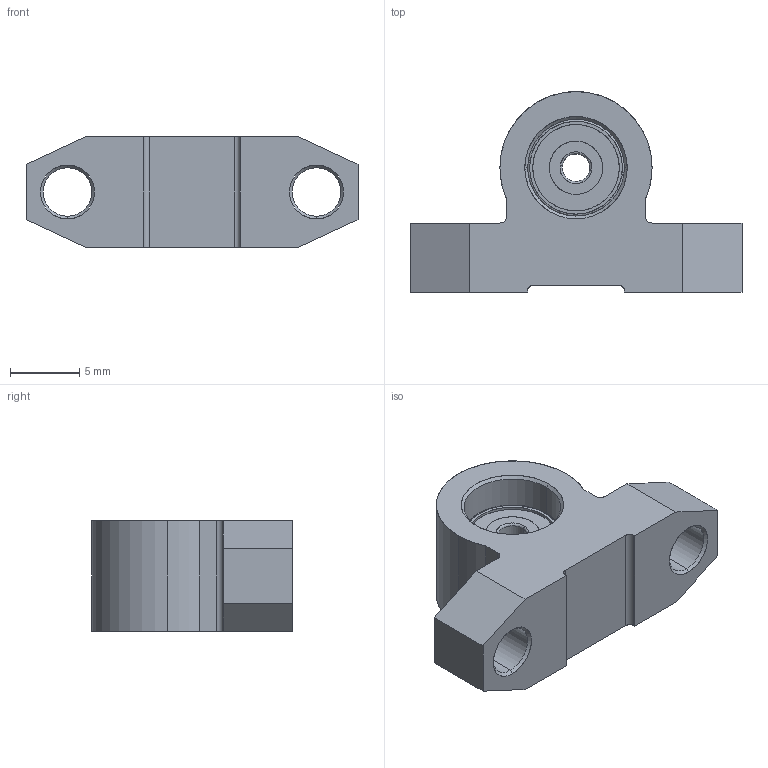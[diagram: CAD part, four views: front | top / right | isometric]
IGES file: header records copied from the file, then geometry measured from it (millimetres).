
Start section: SolidWorks IGES file using analytic representation for surfaces
Global section: file name: C:\Users\watanabe\Desktop\MSU-3\MSU3CS.IGS; native system: SolidWorks 2010; preprocessor: SolidWorks 2010; author: watanabe; date: 120613.094110; units: millimetre
Bounding box: 24 x 14.5 x 8 mm (x, y, z)
Surface area: 1274.4 mm2 (no closed solid volume)
Topology: 0 solids, 0 shells, 68 faces, 918 edges, 918 vertices
Faces by surface type: revolution 37, bspline 31
